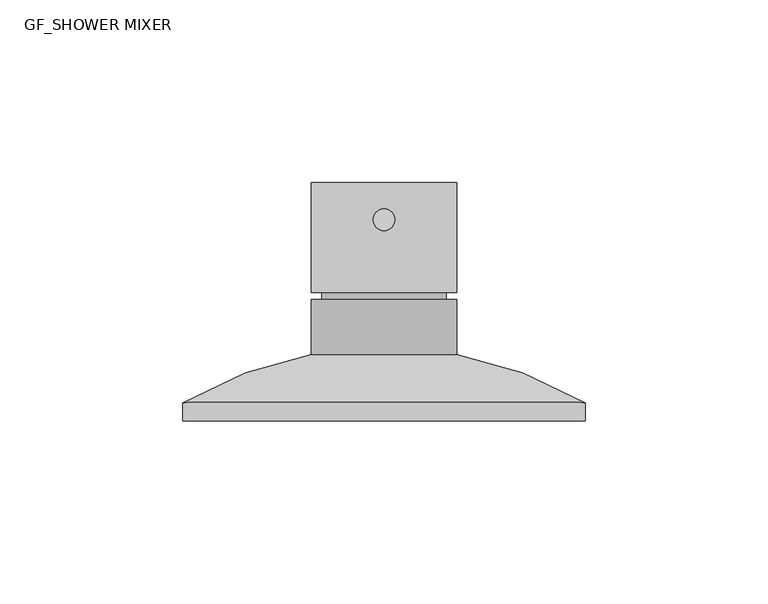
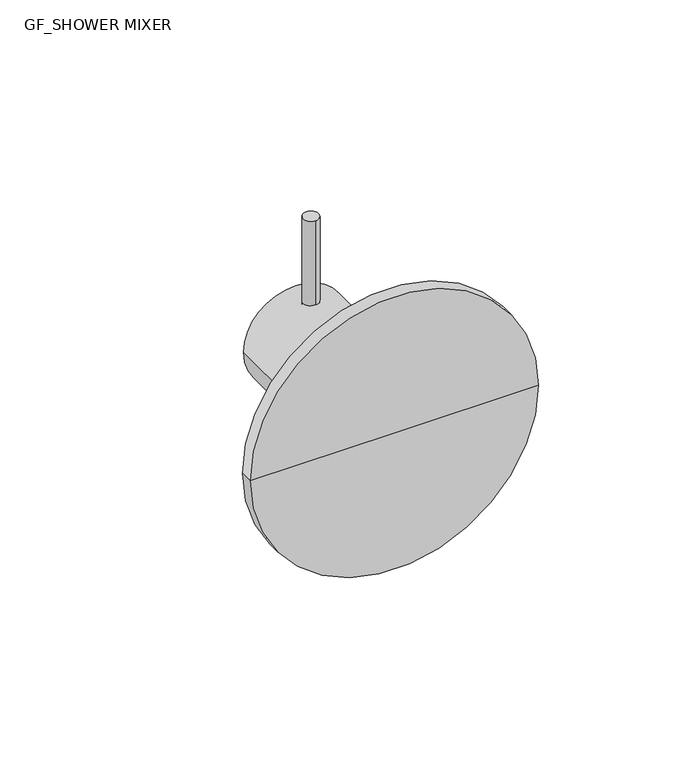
"""IFC4 building model written with IfcOpenShell, lengths in millimetres: flow terminal geometry, GF_SHOWER MIXER : Monomando ducha SPA."""

import ifcopenshell
import ifcopenshell.guid

model = None  # the IFC model being written
_history = None  # IfcOwnerHistory: only IFC2X3 demands one
_inside = {}  # id of a spatial element -> (the spatial element, [elements in it])
_under = {}  # id of a project, library or spatial element -> (it, [spatial elements below it])
_declared = {}  # id of a project -> (the project, [libraries it declares])
_typed = {}  # id of a type object -> (the type object, [elements of that type])
_made_of = {}  # id of a material, layer set ... -> (it, [elements and type objects made of it])


def new_model(schema):
    """Start an empty IFC model of exactly this schema.

    Asked for "IFC4X3", IfcOpenShell would pick the latest addendum, in which some entities
    have other attributes; the version numbers below select the first issue.
    IFC2X3 requires an IfcOwnerHistory on every rooted entity: one is made here for all.
    """
    global model, _history
    if schema == "IFC4X3":
        model = ifcopenshell.file(schema_version=(4, 3, 0, 0))
    else:
        model = ifcopenshell.file(schema=schema)
    _inside.clear()
    _under.clear()
    _declared.clear()
    _typed.clear()
    _made_of.clear()
    _history = None
    if model.schema == "IFC2X3":
        org = make("IfcOrganization", Name="unknown")
        user = make(
            "IfcPersonAndOrganization",
            ThePerson=make("IfcPerson", FamilyName="unknown"),
            TheOrganization=org,
        )
        app = make(
            "IfcApplication",
            ApplicationDeveloper=org,
            Version="unknown",
            ApplicationFullName="unknown",
            ApplicationIdentifier="unknown",
        )
        _history = make(
            "IfcOwnerHistory",
            OwningUser=user,
            OwningApplication=app,
            ChangeAction="ADDED",
            CreationDate=0,
        )
    return model


def make(cls, **values):
    """One entity of the class cls with the attributes given. An attribute that is None is left unset."""
    return model.create_entity(
        cls, **{name: value for name, value in values.items() if value is not None}
    )


def rooted(cls, **values):
    """An entity with a GlobalId (a new one), such as an element, a storey or a relation."""
    return make(cls, GlobalId=ifcopenshell.guid.new(), OwnerHistory=_history, **values)


def si_unit(unit_type, name, prefix=None):
    """IfcSIUnit, for example si_unit("LENGTHUNIT", "METRE", prefix="MILLI")."""
    return make("IfcSIUnit", UnitType=unit_type, Prefix=prefix, Name=name)


def assignment(units):
    """IfcUnitAssignment: the units of a project."""
    return None if units is None else make("IfcUnitAssignment", Units=units)


def point(xyz):
    """IfcCartesianPoint."""
    return None if xyz is None else make("IfcCartesianPoint", Coordinates=xyz)


def direction(xyz):
    """IfcDirection."""
    return None if xyz is None else make("IfcDirection", DirectionRatios=xyz)


def frame(location, z_axis=None, x_axis=None):
    """IfcAxis2Placement3D, a coordinate frame: its origin and axes. An axis left out is left unset."""
    return make(
        "IfcAxis2Placement3D",
        Location=point(location),
        Axis=direction(z_axis),
        RefDirection=direction(x_axis),
    )


def frame_2d(location, x_axis=None):
    """IfcAxis2Placement2D, a coordinate frame in the plane: its origin and x axis."""
    return make(
        "IfcAxis2Placement2D", Location=point(location), RefDirection=direction(x_axis)
    )


def origin():
    """The frame at (0, 0, 0) with its axes left unset."""
    return frame((0.0, 0.0, 0.0))


def place(relative_to, where):
    """IfcLocalPlacement: puts the frame where relative to a parent placement (None: the world)."""
    return make(
        "IfcLocalPlacement", PlacementRelTo=relative_to, RelativePlacement=where
    )


def context(
    kind, dimensions, precision=None, world=None, true_north=None, identifier=None
):
    """IfcGeometricRepresentationContext, for example the 3D "Model" context."""
    return make(
        "IfcGeometricRepresentationContext",
        ContextIdentifier=identifier,
        ContextType=kind,
        CoordinateSpaceDimension=dimensions,
        Precision=precision,
        WorldCoordinateSystem=world,
        TrueNorth=true_north,
    )


def project(units=None, contexts=None):
    """IfcProject with its units and contexts."""
    return rooted(
        "IfcProject",
        Name="project",
        RepresentationContexts=contexts,
        UnitsInContext=assignment(units),
    )


def spatial(cls, under=None, at=None, **own):
    """A site, building, storey or space (cls), placed at a placement, below another one or the project."""
    s = rooted(cls, ObjectPlacement=at, **own)
    if under is not None:
        _under.setdefault(under.id(), (under, []))[1].append(s)
    return s


def circle_curve(where, radius):
    """IfcCircle in the frame where."""
    return make("IfcCircle", Position=where, Radius=radius)


def ellipse_curve(where, semi_axis1, semi_axis2):
    """IfcEllipse in the frame where."""
    return make(
        "IfcEllipse", Position=where, SemiAxis1=semi_axis1, SemiAxis2=semi_axis2
    )


def trimmed(basis, trim1, trim2, sense, master):
    """IfcTrimmedCurve: the piece of a basis curve between two trims."""
    return make(
        "IfcTrimmedCurve",
        BasisCurve=basis,
        Trim1=trim1,
        Trim2=trim2,
        SenseAgreement=sense,
        MasterRepresentation=master,
    )


def segment(curve, same_sense, transition):
    """IfcCompositeCurveSegment."""
    return make(
        "IfcCompositeCurveSegment",
        Transition=transition,
        SameSense=same_sense,
        ParentCurve=curve,
    )


def composite_curve(segments, self_intersect=None):
    """IfcCompositeCurve: segments joined end to end."""
    return make("IfcCompositeCurve", Segments=segments, SelfIntersect=self_intersect)


def outline(outer, holes=None, kind="AREA"):
    """IfcArbitraryClosedProfileDef: a profile drawn as a closed curve; with holes, ...WithVoids."""
    if holes is None:
        return make("IfcArbitraryClosedProfileDef", ProfileType=kind, OuterCurve=outer)
    return make(
        "IfcArbitraryProfileDefWithVoids",
        ProfileType=kind,
        OuterCurve=outer,
        InnerCurves=holes,
    )


def extrude(swept, where, along, depth):
    """IfcExtrudedAreaSolid: the profile swept, set in the frame where, extruded along a direction by depth."""
    return make(
        "IfcExtrudedAreaSolid",
        SweptArea=swept,
        Position=where,
        ExtrudedDirection=direction(along),
        Depth=depth,
    )


def shape(context_of_items, identifier, shape_type, items):
    """IfcShapeRepresentation: the items that make up one representation, for example the "Body"."""
    return make(
        "IfcShapeRepresentation",
        ContextOfItems=context_of_items,
        RepresentationIdentifier=identifier,
        RepresentationType=shape_type,
        Items=items,
    )


def source(mapping_origin, context_of_items, identifier, shape_type, items):
    """IfcRepresentationMap: a shape defined once, which mapped items show again and again."""
    return make(
        "IfcRepresentationMap",
        MappingOrigin=mapping_origin,
        MappedRepresentation=shape(context_of_items, identifier, shape_type, items),
    )


def transform(
    local_origin,
    x_axis=None,
    y_axis=None,
    z_axis=None,
    scale=None,
    scale2=None,
    scale3=None,
    uniform=True,
):
    """IfcCartesianTransformationOperator3D, or its non-uniform kind. x_axis, y_axis, z_axis: its Axis1, 2, 3."""
    if uniform:
        return make(
            "IfcCartesianTransformationOperator3D",
            Axis1=direction(x_axis),
            Axis2=direction(y_axis),
            LocalOrigin=point(local_origin),
            Scale=scale,
            Axis3=direction(z_axis),
        )
    return make(
        "IfcCartesianTransformationOperator3DnonUniform",
        Axis1=direction(x_axis),
        Axis2=direction(y_axis),
        LocalOrigin=point(local_origin),
        Scale=scale,
        Axis3=direction(z_axis),
        Scale2=scale2,
        Scale3=scale3,
    )


def mapped(mapping_source, mapping_target):
    """IfcMappedItem: shows the shape of a source again, moved by a transform."""
    return make(
        "IfcMappedItem", MappingSource=mapping_source, MappingTarget=mapping_target
    )


def made_of(thing, what):
    """Note that an element or type object is made of a material, layer set ...; save() writes the relation."""
    if what is not None:
        _made_of.setdefault(what.id(), (what, []))[1].append(thing)
    return thing


def element(
    cls,
    number,
    at=None,
    inside=None,
    cuts=None,
    type_object=None,
    material=None,
    context=None,
    identifier="Body",
    shape_type=None,
    held_by="IfcProductDefinitionShape",
    body=None,
    shapes=None,
    **own,
):
    """One element of the class cls, such as IfcWall. Its Tag is "e" and its number.

    at: its placement. inside: the storey or other place that contains it. cuts: it is an
    opening in that element (IfcRelVoidsElement). A single representation is given by context,
    identifier, shape_type and body (its items); several are given by shapes. held_by: the class
    of the entity that holds the representations. save() writes the other relations.
    """
    e = rooted(cls, Tag="e%d" % number, ObjectPlacement=at, **own)
    if body is not None:
        shapes = [shape(context, identifier, shape_type, body)]
    if shapes is not None:
        e.Representation = make(held_by, Representations=shapes)
    if inside is not None:
        _inside.setdefault(inside.id(), (inside, []))[1].append(e)
    if cuts is not None:
        rooted(
            "IfcRelVoidsElement", RelatingBuildingElement=cuts, RelatedOpeningElement=e
        )
    if type_object is not None:
        _typed.setdefault(type_object.id(), (type_object, []))[1].append(e)
    return made_of(e, material)


def aggregate(whole, parts):
    """IfcRelAggregates: a whole, such as a stair, and the parts it consists of."""
    return rooted("IfcRelAggregates", RelatingObject=whole, RelatedObjects=parts)


def save(model, path):
    """Write the relations noted so far, then the file.

    IfcRelAggregates (storeys below a building ...), IfcRelContainedInSpatialStructure (elements
    in a storey), IfcRelDefinesByType, IfcRelAssociatesMaterial and IfcRelDeclares: one each for
    every whole, place, type object, material and project.
    """
    for whole, parts in _under.values():
        aggregate(whole, parts)
    for where, things in _inside.values():
        rooted(
            "IfcRelContainedInSpatialStructure",
            RelatedElements=things,
            RelatingStructure=where,
        )
    for kind, things in _typed.values():
        rooted("IfcRelDefinesByType", RelatedObjects=things, RelatingType=kind)
    for what, things in _made_of.values():
        rooted("IfcRelAssociatesMaterial", RelatedObjects=things, RelatingMaterial=what)
    for by, libraries in _declared.values():
        rooted("IfcRelDeclares", RelatingContext=by, RelatedDefinitions=libraries)
    model.write(path)


def plane_surface(at):
    """IfcPlane: the flat surface through the origin of the frame at, square to its z axis."""
    return make("IfcPlane", Position=at)


def cylinder_surface(at, radius):
    """IfcCylindricalSurface: all points at the distance radius from the z axis of the frame at."""
    return make("IfcCylindricalSurface", Position=at, Radius=radius)


def revolved_surface(curve, axis_point, axis_direction):
    """IfcSurfaceOfRevolution: the curve turned about the line through axis_point along axis_direction."""
    return make(
        "IfcSurfaceOfRevolution",
        SweptCurve=make("IfcArbitraryOpenProfileDef", ProfileType="CURVE", Curve=curve),
        AxisPosition=make("IfcAxis1Placement", Location=point(axis_point), Axis=direction(axis_direction)),
    )


def advanced_brep(points, edges, surfaces, faces):
    """IfcAdvancedBrep: a solid bounded by faces that lie on surfaces and meet in shared edges.

    An edge is (start, end): straight between two places in points (the first is 0);
    or (start, end, curve); or (start, end, curve, False) where it runs against its curve.
    A face is (place in surfaces, loops), or (place, loops, False) where it looks against
    its surface's normal. A loop lists edges by number (the first is 1), with a minus sign
    where the edge is run from its end to its start. The first loop is the outer one.
    """
    corners = [point(p) for p in points]
    vertices = [make("IfcVertexPoint", VertexGeometry=c) for c in corners]
    made = []
    for start, end, *more in edges:
        made.append(
            make(
                "IfcEdgeCurve",
                EdgeStart=vertices[start],
                EdgeEnd=vertices[end],
                EdgeGeometry=more[0] if more else make("IfcPolyline", Points=[corners[start], corners[end]]),
                SameSense=more[1] if len(more) > 1 else True,
            )
        )
    hull = []
    for where, loops, *sense in faces:
        bounds = []
        for j, loop in enumerate(loops):
            ring = [make("IfcOrientedEdge", EdgeElement=made[abs(k) - 1], Orientation=k > 0) for k in loop]
            bounds.append(
                make(
                    "IfcFaceOuterBound" if j == 0 else "IfcFaceBound",
                    Bound=make("IfcEdgeLoop", EdgeList=ring),
                    Orientation=True,
                )
            )
        hull.append(make("IfcAdvancedFace", Bounds=bounds, FaceSurface=surfaces[where], SameSense=sense[0] if sense else True))
    return make("IfcAdvancedBrep", Outer=make("IfcClosedShell", CfsFaces=hull))


def gf_shower_mixer_5467fb75(model_context):
    return source(origin(), model_context, "Body", "SolidModel", [
        extrude(outline(composite_curve([segment(trimmed(circle_curve(frame_2d((1092.2, -12.1185542)), 19.84375), [point((1092.2, 7.7251958))], [point((1092.2, -31.9623042))], False, "CARTESIAN"), True, "CONTINUOUS"), segment(trimmed(circle_curve(frame_2d((1092.2, -12.1185542)), 19.84375), [point((1092.2, -31.9623042))], [point((1092.2, 7.7251958))], False, "CARTESIAN"), True, "CONTINUOUS")], self_intersect=False)), frame((0.0, 40.1234375, 0.0), z_axis=(0.0, 1.0, 0.0), x_axis=(0.0, 0.0, 1.0)), (0.0, 0.0, 1.0), 30.0632812),
        extrude(outline(composite_curve([segment(trimmed(circle_curve(frame_2d((-12.1185542, 60.0414784)), 2.9971637), [point((-12.1185542, 63.038642))], [point((-12.1185542, 57.0443147))], False, "CARTESIAN"), True, "CONTINUOUS"), segment(trimmed(circle_curve(frame_2d((-12.1185542, 60.0414784)), 2.9971637), [point((-12.1185542, 57.0443147))], [point((-12.1185542, 63.038642))], False, "CARTESIAN"), True, "CONTINUOUS")], self_intersect=False)), frame((0.0, 0.0, 1092.2), z_axis=(0.0, 0.0, 1.0), x_axis=(1.0, 0.0, 0.0)), (0.0, 0.0, 1.0), 53.975),
        extrude(outline(composite_curve([segment(trimmed(circle_curve(frame_2d((1092.2, -12.1185542)), 19.84375), [point((1092.2, 7.7251958))], [point((1092.2, -31.9623042))], False, "CARTESIAN"), True, "CONTINUOUS"), segment(trimmed(circle_curve(frame_2d((1092.2, -12.1185542)), 19.84375), [point((1092.2, -31.9623042))], [point((1092.2, 7.7251958))], False, "CARTESIAN"), True, "CONTINUOUS")], self_intersect=False)), frame((0.0, 23.1718998, 0.0), z_axis=(0.0, 1.0, 0.0), x_axis=(0.0, 0.0, 1.0)), (0.0, 0.0, 1.0), 15.0),
        extrude(outline(composite_curve([segment(trimmed(circle_curve(frame_2d((1092.2, -12.1185542)), 17.0), [point((1092.2, -29.1185542))], [point((1092.2, 4.8814458))], False, "CARTESIAN"), True, "CONTINUOUS"), segment(trimmed(circle_curve(frame_2d((1092.2, -12.1185542)), 17.0), [point((1092.2, 4.8814458))], [point((1092.2, -29.1185542))], False, "CARTESIAN"), True, "CONTINUOUS")], self_intersect=False)), frame((0.0, 38.1718998, 0.0), z_axis=(0.0, 1.0, 0.0), x_axis=(0.0, 0.0, 1.0)), (0.0, 0.0, 1.0), 2.0),
        advanced_brep(
        [(42.8814458, 5.0, 1092.2), (-67.1185542, 5.0, 1092.2), (-67.1185542, 10.0, 1092.2), (42.8814458, 10.0, 1092.2), (-12.1185542, 5.0, 1092.2), (7.6992767, 23.1718998, 1092.2), (-31.9363851, 23.1718998, 1092.2), (-12.1185542, 23.1718998, 1092.2)],
        [
            (0, 1, circle_curve(frame((-12.1185542, 5.0, 1092.2), z_axis=(0.0, 1.0, 0.0), x_axis=(-1.0, 0.0, 0.0)), 55.0)),
            (1, 2),
            (2, 3, circle_curve(frame((-12.1185542, 10.0, 1092.2), z_axis=(0.0, -1.0, 0.0), x_axis=(-1.0, 0.0, 0.0)), 55.0)),
            (3, 0),
            (1, 0, circle_curve(frame((-12.1185542, 5.0, 1092.2), z_axis=(0.0, 1.0, 0.0), x_axis=(-1.0, 0.0, 0.0)), 55.0)),
            (3, 2, circle_curve(frame((-12.1185542, 10.0, 1092.2), z_axis=(0.0, -1.0, 0.0), x_axis=(-1.0, 0.0, 0.0)), 55.0)),
            (4, 1),
            (0, 4),
            (5, 6, circle_curve(frame((-12.1185542, 23.1718998, 1092.2), z_axis=(0.0, 1.0, 0.0), x_axis=(-1.0, 0.0, 0.0)), 19.8178309)),
            (6, 7),
            (7, 5),
            (6, 5, circle_curve(frame((-12.1185542, 23.1718998, 1092.2), z_axis=(0.0, 1.0, 0.0), x_axis=(-1.0, 0.0, 0.0)), 19.8178309)),
            (2, 6, circle_curve(frame((-12.1185542, -83.3333333, 1092.2), z_axis=(0.0, 0.0, -1.0), x_axis=(0.0, -1.0, 0.0)), 108.3333333)),
            (5, 3, circle_curve(frame((-12.1185542, -83.3333333, 1092.2), z_axis=(0.0, 0.0, -1.0), x_axis=(0.0, -1.0, 0.0)), 108.3333333)),
        ],
        [
            cylinder_surface(frame((-12.1185542, 5.0, 1092.2), z_axis=(0.0, -1.0, 0.0), x_axis=(-1.0, 0.0, 0.0)), 55.0),
            plane_surface(frame((-12.1185542, 5.0, 1092.2), z_axis=(0.0, -1.0, 0.0), x_axis=(-1.0, 0.0, 0.0))),
            plane_surface(frame((-12.1185542, 23.1718998, 1092.2), z_axis=(0.0, 1.0, 0.0), x_axis=(-1.0, 0.0, 0.0))),
            revolved_surface(trimmed(ellipse_curve(frame((-12.1185542, -83.3333333, 1092.2), z_axis=(0.0, 0.0, 1.0), x_axis=(0.0, -1.0, 0.0)), 108.3333333, 108.3333333), [point((-31.9363851, 23.1718998, 1092.2))], [point((-67.1185542, 10.0, 1092.2))], True, "CARTESIAN"), (-12.1185542, 5.0, 1092.2), (0.0, -1.0, 0.0)),
        ],
        [
            (0, [[1, 2, 3, 4]]),
            (0, [[5, -4, 6, -2]]),
            (1, [[7, -1, 8]]),
            (1, [[-8, -5, -7]]),
            (2, [[9, 10, 11]]),
            (2, [[12, -11, -10]]),
            (3, [[-3, 13, -9, 14]]),
            (3, [[-6, -14, -12, -13]]),
        ],
    ),
    ])


if __name__ == "__main__":
    model = new_model("IFC4")
    model_context = context("Model", 3, world=origin())
    ifc_project = project(units=[si_unit("LENGTHUNIT", "METRE", prefix="MILLI")], contexts=[model_context])
    site = spatial("IfcSite", under=ifc_project)
    building = spatial("IfcBuilding", under=site)
    placement = place(None, origin())
    gf_shower_mixer_shape = gf_shower_mixer_5467fb75(model_context)
    element("IfcFlowTerminal", 1, ObjectType="GF_SHOWER MIXER : Monomando ducha SPA", at=placement, inside=building, context=model_context, shape_type="MappedRepresentation", body=[
        mapped(gf_shower_mixer_shape, transform((0.0, 0.0, 0.0), x_axis=(1.0, 0.0, 0.0), y_axis=(0.0, 1.0, 0.0), z_axis=(0.0, 0.0, 1.0))),
    ])
    save(model, "model.ifc")
